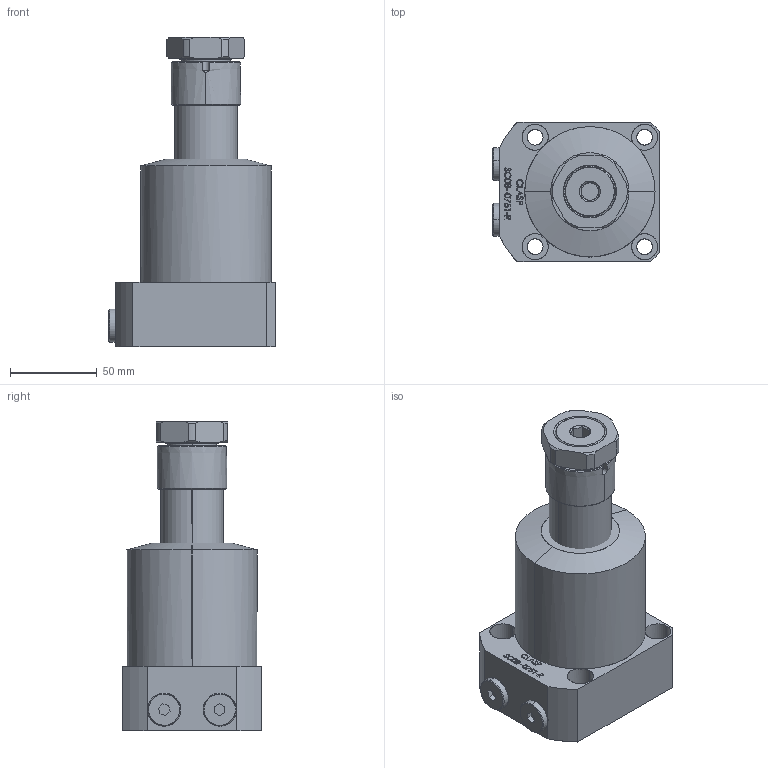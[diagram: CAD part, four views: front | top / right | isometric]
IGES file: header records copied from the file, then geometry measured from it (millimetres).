
Start section: SolidWorks IGES file using analytic representation for surfaces
Global section: file name: D:\karuppas\Clasp\3D model\SWING CYLINDER\bottom mounting swing cylinder\SC08-0751-R\SC08-0751-R.IGS; native system: SolidWorks 2017; preprocessor: SolidWorks 2017; author: pc; date: 220708.225036; units: millimetre
Bounding box: 96 x 80 x 178 mm (x, y, z)
Surface area: 73781.1 mm2 (no closed solid volume)
Topology: 0 solids, 0 shells, 378 faces, 6041 edges, 6040 vertices
Faces by surface type: bspline 273, revolution 105
